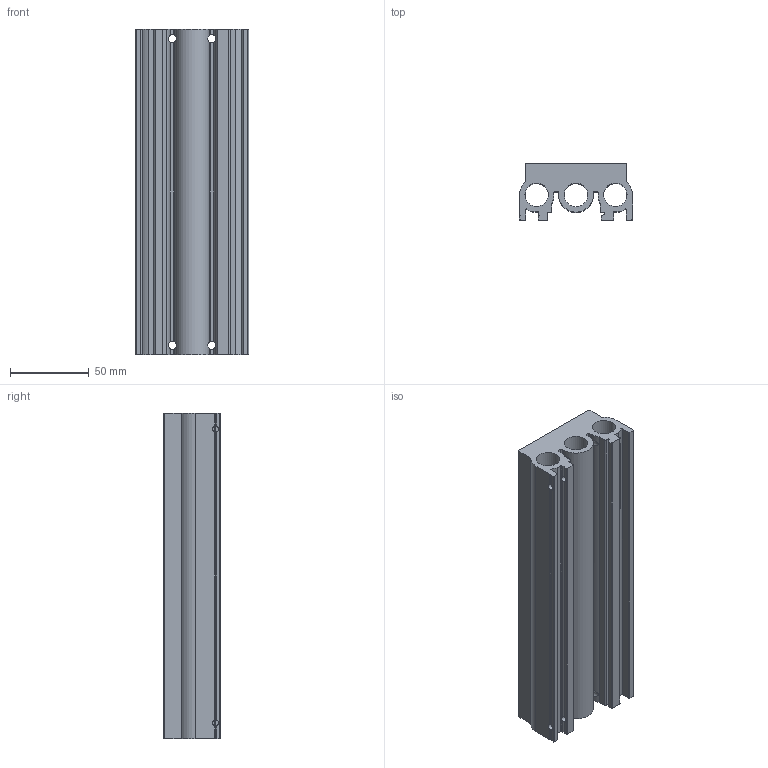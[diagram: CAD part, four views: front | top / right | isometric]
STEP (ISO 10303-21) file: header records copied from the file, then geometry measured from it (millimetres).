
FILE_DESCRIPTION(/* description */ ('COLLETTORE G1/4" 6 POSTI (TECNO-ECO)'),/* implementation_level */ '2;1');
FILE_NAME(/* name */ 'I:\Area Tecnica\Disegni\VARIE-3D\Componenti\T400\T424\T424_##\T424_06.stp',/* time_stamp */ '2015-09-23T13:41:40+02:00',/* author */ ('maniean1'),/* organization */ (''),/* preprocessor_version */ 'ST-DEVELOPER v15.2',/* originating_system */ 'Autodesk Inventor 2014',/* authorisation */ '');
FILE_SCHEMA (('AUTOMOTIVE_DESIGN { 1 0 10303 214 3 1 1 }'));
Length unit declared in the file: millimetre
Products named in the file (1): T424_06
Bounding box: 72 x 36 x 207 mm (x, y, z)
Volume: 294736.8 mm3; surface area: 99896.2 mm2
Topology: 1 solids, 1 shells, 225 faces, 557 edges, 364 vertices
Faces by surface type: cylinder 108, plane 99, cone 18
Full cylindrical faces by diameter (mm): 4 x22, 5.25 x4, 8 x18, 9 x4, 14.9 x3, 16.8 x18
Entity records: 7246 total; most frequent: CARTESIAN_POINT 2024, DIRECTION 1096, ORIENTED_EDGE 924, EDGE_CURVE 462, AXIS2_PLACEMENT_3D 452, EDGE_LOOP 400, VERTEX_POINT 356, ADVANCED_FACE 225
